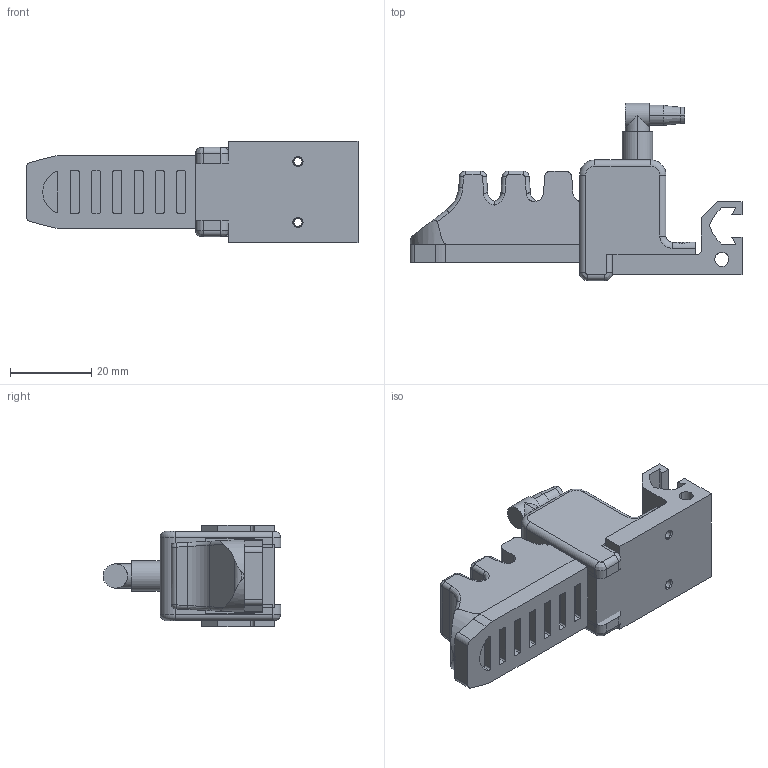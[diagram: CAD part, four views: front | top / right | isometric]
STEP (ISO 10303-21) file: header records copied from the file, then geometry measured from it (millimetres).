
FILE_DESCRIPTION (( 'STEP AP214' ), '1' );
FILE_NAME ('GFM-B4V5.STEP', '2019-12-04T03:40:02', ( '微软用户' ), ( '微软中国' ), 'SwSTEP 2.0', 'SolidWorks 2016', '' );
FILE_SCHEMA (( 'AUTOMOTIVE_DESIGN' ));
Length unit declared in the file: millimetre
Products named in the file (1): GFM-B4V5
Bounding box: 81.83 x 43.75 x 25 mm (x, y, z)
Volume: 29352.1 mm3; surface area: 15429.5 mm2
Topology: 4 solids, 4 shells, 289 faces, 724 edges, 452 vertices
Faces by surface type: cylinder 130, plane 111, bspline 28, cone 14, torus 6
Entity records: 13402 total; most frequent: CARTESIAN_POINT 3408, ORIENTED_EDGE 1448, DIRECTION 1386, EDGE_CURVE 724, AXIS2_PLACEMENT_3D 496, VERTEX_POINT 452, VECTOR 394, LINE 394
